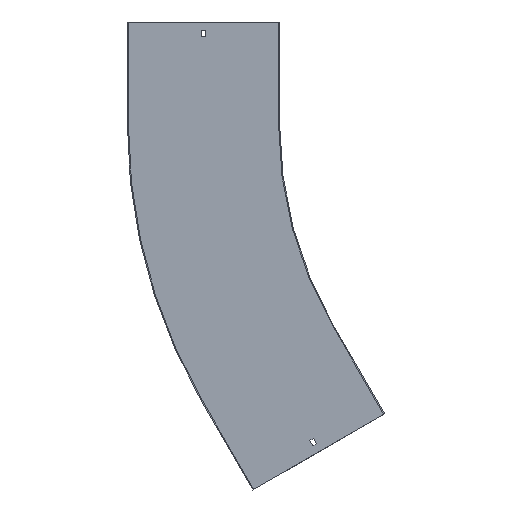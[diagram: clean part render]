
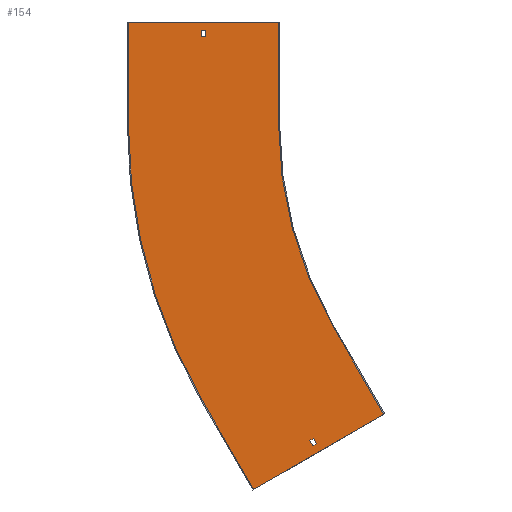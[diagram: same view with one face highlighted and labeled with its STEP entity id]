
A CAD part, front view. The second image highlights one B-rep face of the part: STEP entity #154.
In plain terms, the highlighted planar face has unit normal (0, -1, 0).
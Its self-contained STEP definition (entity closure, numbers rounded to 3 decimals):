
#1 = DIRECTION ( 'NONE',  ( 0., -1., 0. ) ) ;
#8 = VECTOR ( 'NONE', #462, 1000. ) ;
#11 = ORIENTED_EDGE ( 'NONE', *, *, #485, .T. ) ;
#14 = VERTEX_POINT ( 'NONE', #37 ) ;
#15 = CARTESIAN_POINT ( 'NONE',  ( -590., -1.5, 150. ) ) ;
#23 = DIRECTION ( 'NONE',  ( 0., 0., 1. ) ) ;
#24 = LINE ( 'NONE', #15, #727 ) ;
#25 = DIRECTION ( 'NONE',  ( 1., 0., 0. ) ) ;
#26 = ORIENTED_EDGE ( 'NONE', *, *, #697, .F. ) ;
#34 = LINE ( 'NONE', #293, #245 ) ;
#37 = CARTESIAN_POINT ( 'NONE',  ( -538.903, -1.5, -460.092 ) ) ;
#38 = VECTOR ( 'NONE', #156, 1000. ) ;
#41 = ORIENTED_EDGE ( 'NONE', *, *, #71, .F. ) ;
#47 = EDGE_CURVE ( 'NONE', #306, #567, #362, .T. ) ;
#49 = DIRECTION ( 'NONE',  ( 0., -1., 0. ) ) ;
#57 = CARTESIAN_POINT ( 'NONE',  ( -590., -1.5, 150. ) ) ;
#71 = EDGE_CURVE ( 'NONE', #14, #161, #356, .T. ) ;
#74 = VERTEX_POINT ( 'NONE', #308 ) ;
#88 = DIRECTION ( 'NONE',  ( -1., 0., 0. ) ) ;
#99 = CARTESIAN_POINT ( 'NONE',  ( 0., -1.5, 138. ) ) ;
#104 = ORIENTED_EDGE ( 'NONE', *, *, #348, .T. ) ;
#127 = ORIENTED_EDGE ( 'NONE', *, *, #397, .F. ) ;
#130 = VERTEX_POINT ( 'NONE', #530 ) ;
#135 = VERTEX_POINT ( 'NONE', #847 ) ;
#136 = EDGE_CURVE ( 'NONE', #135, #130, #378, .T. ) ;
#151 = DIRECTION ( 'NONE',  ( 0.866, 0., 0.5 ) ) ;
#154 = ADVANCED_FACE ( 'NONE', ( #649, #597, #252 ), #313, .T. ) ;
#156 = DIRECTION ( 'NONE',  ( 0.5, 0., -0.866 ) ) ;
#159 = CIRCLE ( 'NONE', #602, 810. ) ;
#161 = VERTEX_POINT ( 'NONE', #186 ) ;
#164 = CARTESIAN_POINT ( 'NONE',  ( 64.5, -1.5, -111.717 ) ) ;
#181 = DIRECTION ( 'NONE',  ( -0.866, 0., -0.5 ) ) ;
#186 = CARTESIAN_POINT ( 'NONE',  ( -544.532, -1.5, -463.342 ) ) ;
#187 = VECTOR ( 'NONE', #181, 1000. ) ;
#198 = VERTEX_POINT ( 'NONE', #609 ) ;
#200 = DIRECTION ( 'NONE',  ( 0., 0., -1. ) ) ;
#202 = VECTOR ( 'NONE', #761, 1000. ) ;
#204 = EDGE_LOOP ( 'NONE', ( #696, #476, #785, #395, #539, #309, #844, #350 ) ) ;
#217 = DIRECTION ( 'NONE',  ( 0., 0., -1. ) ) ;
#220 = DIRECTION ( 'NONE',  ( 0.5, 0., -0.866 ) ) ;
#232 = AXIS2_PLACEMENT_3D ( 'NONE', #738, #1, #200 ) ;
#233 = CARTESIAN_POINT ( 'NONE',  ( -703.25, -1.5, 0. ) ) ;
#240 = CARTESIAN_POINT ( 'NONE',  ( -701.481, -1.5, -405. ) ) ;
#245 = VECTOR ( 'NONE', #750, 1000. ) ;
#250 = DIRECTION ( 'NONE',  ( 0., 0., 1. ) ) ;
#252 = FACE_BOUND ( 'NONE', #267, .T. ) ;
#257 = VERTEX_POINT ( 'NONE', #546 ) ;
#267 = EDGE_LOOP ( 'NONE', ( #104, #474, #11, #858 ) ) ;
#293 = CARTESIAN_POINT ( 'NONE',  ( -811.5, -1.5, 150. ) ) ;
#300 = CARTESIAN_POINT ( 'NONE',  ( -510.955, -1.5, -295. ) ) ;
#306 = VERTEX_POINT ( 'NONE', #622 ) ;
#308 = CARTESIAN_POINT ( 'NONE',  ( -534.403, -1.5, -467.887 ) ) ;
#309 = ORIENTED_EDGE ( 'NONE', *, *, #379, .F. ) ;
#313 = PLANE ( 'NONE',  #775 ) ;
#322 = DIRECTION ( 'NONE',  ( -0.5, 0., 0.866 ) ) ;
#325 = LINE ( 'NONE', #452, #527 ) ;
#348 = EDGE_CURVE ( 'NONE', #567, #135, #699, .T. ) ;
#350 = ORIENTED_EDGE ( 'NONE', *, *, #725, .F. ) ;
#356 = LINE ( 'NONE', #164, #202 ) ;
#361 = DIRECTION ( 'NONE',  ( -0.5, 0., 0.866 ) ) ;
#362 = LINE ( 'NONE', #233, #848 ) ;
#365 = LINE ( 'NONE', #625, #537 ) ;
#374 = VECTOR ( 'NONE', #88, 1000. ) ;
#378 = LINE ( 'NONE', #653, #8 ) ;
#379 = EDGE_CURVE ( 'NONE', #724, #838, #365, .T. ) ;
#382 = CARTESIAN_POINT ( 'NONE',  ( -703.25, -1.5, 138. ) ) ;
#385 = EDGE_CURVE ( 'NONE', #438, #508, #34, .T. ) ;
#392 = CARTESIAN_POINT ( 'NONE',  ( -435.955, -1.5, -424.904 ) ) ;
#395 = ORIENTED_EDGE ( 'NONE', *, *, #545, .F. ) ;
#397 = EDGE_CURVE ( 'NONE', #74, #14, #494, .T. ) ;
#419 = CARTESIAN_POINT ( 'NONE',  ( 0., -1.5, 0. ) ) ;
#420 = LINE ( 'NONE', #689, #374 ) ;
#425 = CARTESIAN_POINT ( 'NONE',  ( -590., -1.5, 0. ) ) ;
#426 = VERTEX_POINT ( 'NONE', #425 ) ;
#429 = DIRECTION ( 'NONE',  ( 0., 0., -1. ) ) ;
#438 = VERTEX_POINT ( 'NONE', #630 ) ;
#444 = LINE ( 'NONE', #596, #187 ) ;
#452 = CARTESIAN_POINT ( 'NONE',  ( -626.481, -1.5, -534.904 ) ) ;
#457 = VECTOR ( 'NONE', #151, 1000. ) ;
#462 = DIRECTION ( 'NONE',  ( 0., 0., -1. ) ) ;
#474 = ORIENTED_EDGE ( 'NONE', *, *, #136, .T. ) ;
#476 = ORIENTED_EDGE ( 'NONE', *, *, #505, .F. ) ;
#485 = EDGE_CURVE ( 'NONE', #130, #306, #420, .T. ) ;
#494 = LINE ( 'NONE', #759, #681 ) ;
#505 = EDGE_CURVE ( 'NONE', #198, #438, #520, .T. ) ;
#508 = VERTEX_POINT ( 'NONE', #57 ) ;
#516 = CARTESIAN_POINT ( 'NONE',  ( -810., -1.5, 0. ) ) ;
#520 = LINE ( 'NONE', #516, #746 ) ;
#527 = VECTOR ( 'NONE', #322, 1000. ) ;
#530 = CARTESIAN_POINT ( 'NONE',  ( -696.75, -1.5, 129. ) ) ;
#532 = EDGE_CURVE ( 'NONE', #838, #819, #444, .T. ) ;
#537 = VECTOR ( 'NONE', #220, 1000. ) ;
#539 = ORIENTED_EDGE ( 'NONE', *, *, #532, .F. ) ;
#545 = EDGE_CURVE ( 'NONE', #819, #552, #325, .T. ) ;
#546 = CARTESIAN_POINT ( 'NONE',  ( -540.032, -1.5, -471.137 ) ) ;
#552 = VERTEX_POINT ( 'NONE', #240 ) ;
#553 = CIRCLE ( 'NONE', #232, 590. ) ;
#567 = VERTEX_POINT ( 'NONE', #382 ) ;
#586 = DIRECTION ( 'NONE',  ( 0., 0., -1. ) ) ;
#589 = CARTESIAN_POINT ( 'NONE',  ( -626.481, -1.5, -534.904 ) ) ;
#596 = CARTESIAN_POINT ( 'NONE',  ( -434.656, -1.5, -424.154 ) ) ;
#597 = FACE_OUTER_BOUND ( 'NONE', #204, .T. ) ;
#601 = VECTOR ( 'NONE', #25, 1000. ) ;
#602 = AXIS2_PLACEMENT_3D ( 'NONE', #419, #816, #217 ) ;
#609 = CARTESIAN_POINT ( 'NONE',  ( -810., -1.5, 0. ) ) ;
#622 = CARTESIAN_POINT ( 'NONE',  ( -703.25, -1.5, 129. ) ) ;
#625 = CARTESIAN_POINT ( 'NONE',  ( -510.955, -1.5, -295. ) ) ;
#630 = CARTESIAN_POINT ( 'NONE',  ( -810., -1.5, 150. ) ) ;
#646 = EDGE_CURVE ( 'NONE', #426, #724, #553, .T. ) ;
#649 = FACE_BOUND ( 'NONE', #717, .T. ) ;
#650 = ORIENTED_EDGE ( 'NONE', *, *, #679, .F. ) ;
#653 = CARTESIAN_POINT ( 'NONE',  ( -696.75, -1.5, 0. ) ) ;
#669 = LINE ( 'NONE', #824, #457 ) ;
#679 = EDGE_CURVE ( 'NONE', #257, #74, #669, .T. ) ;
#681 = VECTOR ( 'NONE', #361, 1000. ) ;
#689 = CARTESIAN_POINT ( 'NONE',  ( 0., -1.5, 129. ) ) ;
#696 = ORIENTED_EDGE ( 'NONE', *, *, #385, .F. ) ;
#697 = EDGE_CURVE ( 'NONE', #161, #257, #758, .T. ) ;
#699 = LINE ( 'NONE', #99, #601 ) ;
#702 = EDGE_CURVE ( 'NONE', #552, #198, #159, .T. ) ;
#717 = EDGE_LOOP ( 'NONE', ( #127, #650, #26, #41 ) ) ;
#724 = VERTEX_POINT ( 'NONE', #300 ) ;
#725 = EDGE_CURVE ( 'NONE', #508, #426, #24, .T. ) ;
#727 = VECTOR ( 'NONE', #429, 1000. ) ;
#738 = CARTESIAN_POINT ( 'NONE',  ( 0., -1.5, 0. ) ) ;
#746 = VECTOR ( 'NONE', #250, 1000. ) ;
#750 = DIRECTION ( 'NONE',  ( 1., 0., 0. ) ) ;
#758 = LINE ( 'NONE', #768, #38 ) ;
#759 = CARTESIAN_POINT ( 'NONE',  ( -603.403, -1.5, -348.375 ) ) ;
#761 = DIRECTION ( 'NONE',  ( -0.866, 0., -0.5 ) ) ;
#768 = CARTESIAN_POINT ( 'NONE',  ( -609.032, -1.5, -351.625 ) ) ;
#775 = AXIS2_PLACEMENT_3D ( 'NONE', #857, #49, #586 ) ;
#785 = ORIENTED_EDGE ( 'NONE', *, *, #702, .F. ) ;
#816 = DIRECTION ( 'NONE',  ( 0., 1., 0. ) ) ;
#819 = VERTEX_POINT ( 'NONE', #589 ) ;
#824 = CARTESIAN_POINT ( 'NONE',  ( 69., -1.5, -119.512 ) ) ;
#838 = VERTEX_POINT ( 'NONE', #392 ) ;
#844 = ORIENTED_EDGE ( 'NONE', *, *, #646, .F. ) ;
#847 = CARTESIAN_POINT ( 'NONE',  ( -696.75, -1.5, 138. ) ) ;
#848 = VECTOR ( 'NONE', #23, 1000. ) ;
#857 = CARTESIAN_POINT ( 'NONE',  ( 0., -1.5, 0. ) ) ;
#858 = ORIENTED_EDGE ( 'NONE', *, *, #47, .T. ) ;
